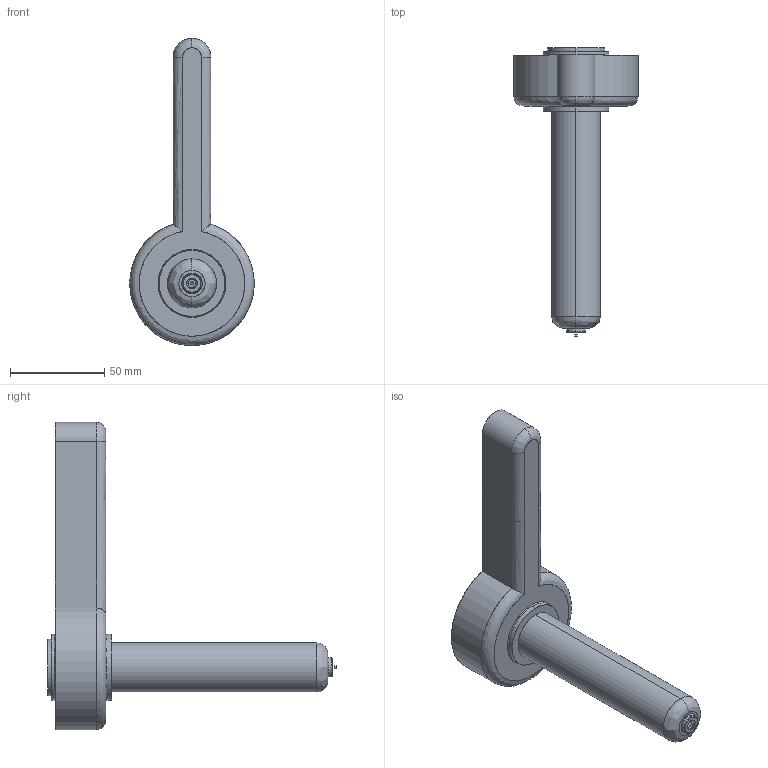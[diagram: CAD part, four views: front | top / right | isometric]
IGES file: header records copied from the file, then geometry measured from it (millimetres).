
Start section: SolidWorks IGES file using analytic representation for surfaces
Global section: file name: C:\Documents and Settings\ws-20\Desktop\TEM\Sede UGER3553-S-A C-119 L-151 Ød-1.5.IGS; native system: SolidWorks 2012; preprocessor: SolidWorks 2012; author: ws-20; date: 120410.083548; units: millimetre
Bounding box: 65.98 x 153.3 x 163 mm (x, y, z)
Surface area: 30387.7 mm2 (no closed solid volume)
Topology: 0 solids, 0 shells, 42 faces, 894 edges, 894 vertices
Faces by surface type: revolution 25, bspline 17
